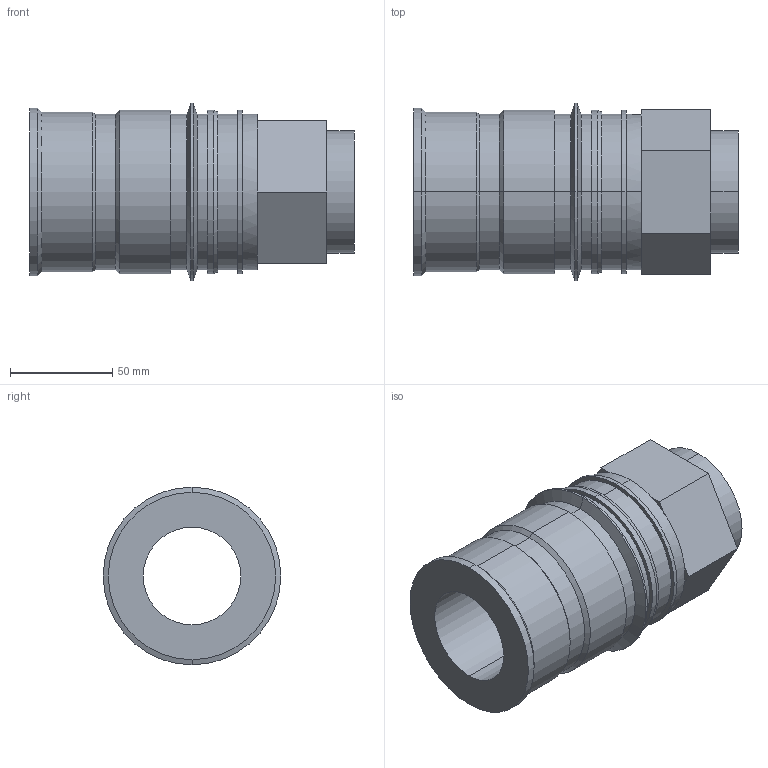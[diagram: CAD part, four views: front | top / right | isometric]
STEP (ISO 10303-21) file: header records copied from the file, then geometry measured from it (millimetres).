
FILE_DESCRIPTION (( 'STEP AP214' ), '1' );
FILE_NAME ('BR601.38 DGB 48.STEP', '2020-12-02T13:17:49', ( '' ), ( '' ), 'SwSTEP 2.0', 'SolidWorks 2018', '' );
FILE_SCHEMA (( 'AUTOMOTIVE_DESIGN' ));
Length unit declared in the file: millimetre
Products named in the file (1): BR601.38 DGB 48
Bounding box: 159 x 86.99 x 86.99 mm (x, y, z)
Volume: 433211.2 mm3; surface area: 73203.7 mm2
Topology: 1 solids, 1 shells, 64 faces, 134 edges, 78 vertices
Faces by surface type: cylinder 26, plane 26, cone 12
Entity records: 1730 total; most frequent: DIRECTION 330, CARTESIAN_POINT 277, ORIENTED_EDGE 268, EDGE_CURVE 134, AXIS2_PLACEMENT_3D 131, VERTEX_POINT 78, EDGE_LOOP 72, LINE 68
